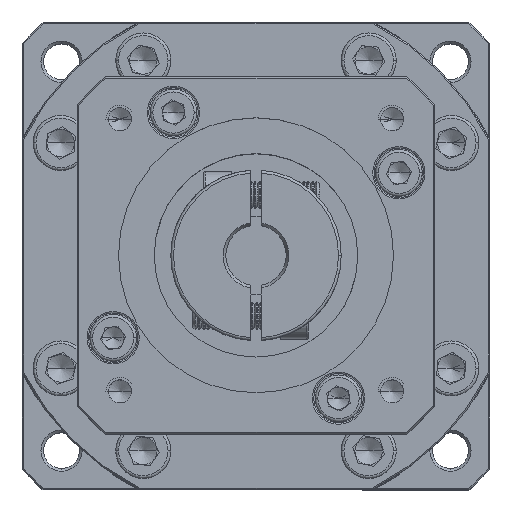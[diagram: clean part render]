
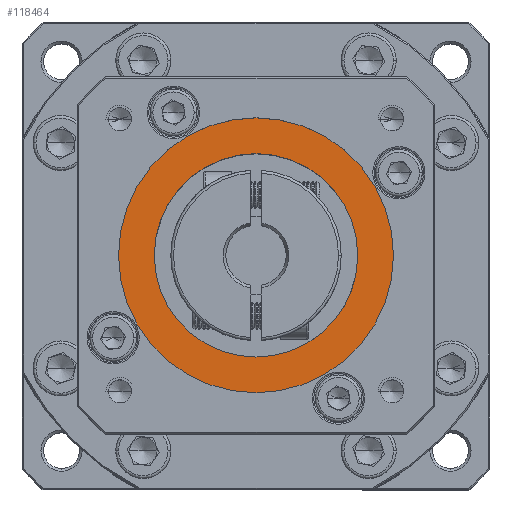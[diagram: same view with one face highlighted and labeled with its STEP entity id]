
A CAD part, top view. The second image highlights one B-rep face of the part: STEP entity #118464.
In plain terms, the highlighted planar face has unit normal (0, 0, 1).
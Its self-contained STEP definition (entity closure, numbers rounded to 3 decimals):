
#6265 = DIRECTION ( 'NONE',  ( 0., 0., -1. ) ) ;
#6620 = CARTESIAN_POINT ( 'NONE',  ( -48.917, 52.772, 13.599 ) ) ;
#7641 = CARTESIAN_POINT ( 'NONE',  ( -67.417, 52.772, 13.599 ) ) ;
#11105 = CARTESIAN_POINT ( 'NONE',  ( -92.417, 52.772, 13.599 ) ) ;
#12461 = CIRCLE ( 'NONE', #43131, 25. ) ;
#12570 = CARTESIAN_POINT ( 'NONE',  ( -67.417, 52.772, 13.599 ) ) ;
#16336 = DIRECTION ( 'NONE',  ( 1., 0., 0. ) ) ;
#19896 = DIRECTION ( 'NONE',  ( 1., 0., 0. ) ) ;
#22361 = CARTESIAN_POINT ( 'NONE',  ( -67.417, 52.772, 13.599 ) ) ;
#22629 = DIRECTION ( 'NONE',  ( 0., 0., 1. ) ) ;
#27552 = VERTEX_POINT ( 'NONE', #73310 ) ;
#31774 = CARTESIAN_POINT ( 'NONE',  ( -67.417, 52.772, 13.599 ) ) ;
#38205 = DIRECTION ( 'NONE',  ( 0., 0., -1. ) ) ;
#40495 = EDGE_CURVE ( 'NONE', #126836, #62275, #12461, .T. ) ;
#43131 = AXIS2_PLACEMENT_3D ( 'NONE', #12570, #22629, #106860 ) ;
#47424 = CARTESIAN_POINT ( 'NONE',  ( -42.417, 52.772, 13.599 ) ) ;
#48649 = AXIS2_PLACEMENT_3D ( 'NONE', #7641, #6265, #16336 ) ;
#50979 = CIRCLE ( 'NONE', #48649, 18.5 ) ;
#60777 = EDGE_CURVE ( 'NONE', #62275, #126836, #112728, .T. ) ;
#62275 = VERTEX_POINT ( 'NONE', #47424 ) ;
#72093 = EDGE_CURVE ( 'NONE', #119287, #27552, #50979, .T. ) ;
#73310 = CARTESIAN_POINT ( 'NONE',  ( -85.917, 52.772, 13.599 ) ) ;
#74552 = DIRECTION ( 'NONE',  ( 1., 0., 0. ) ) ;
#79406 = DIRECTION ( 'NONE',  ( 1., 0., 0. ) ) ;
#79593 = EDGE_CURVE ( 'NONE', #27552, #119287, #103653, .T. ) ;
#81871 = ORIENTED_EDGE ( 'NONE', *, *, #72093, .T. ) ;
#82575 = ORIENTED_EDGE ( 'NONE', *, *, #40495, .T. ) ;
#82659 = ORIENTED_EDGE ( 'NONE', *, *, #60777, .T. ) ;
#88421 = EDGE_LOOP ( 'NONE', ( #82659, #82575 ) ) ;
#92860 = PLANE ( 'NONE',  #115001 ) ;
#99978 = CARTESIAN_POINT ( 'NONE',  ( -67.417, 52.772, 13.599 ) ) ;
#103473 = FACE_BOUND ( 'NONE', #112199, .T. ) ;
#103653 = CIRCLE ( 'NONE', #113777, 18.5 ) ;
#106860 = DIRECTION ( 'NONE',  ( 1., 0., 0. ) ) ;
#112199 = EDGE_LOOP ( 'NONE', ( #81871, #134285 ) ) ;
#112728 = CIRCLE ( 'NONE', #130370, 25. ) ;
#113777 = AXIS2_PLACEMENT_3D ( 'NONE', #99978, #38205, #79406 ) ;
#115001 = AXIS2_PLACEMENT_3D ( 'NONE', #22361, #125744, #74552 ) ;
#115494 = DIRECTION ( 'NONE',  ( 0., 0., 1. ) ) ;
#118464 = ADVANCED_FACE ( 'NONE', ( #131128, #103473 ), #92860, .T. ) ;
#119287 = VERTEX_POINT ( 'NONE', #6620 ) ;
#125744 = DIRECTION ( 'NONE',  ( 0., 0., 1. ) ) ;
#126836 = VERTEX_POINT ( 'NONE', #11105 ) ;
#130370 = AXIS2_PLACEMENT_3D ( 'NONE', #31774, #115494, #19896 ) ;
#131128 = FACE_OUTER_BOUND ( 'NONE', #88421, .T. ) ;
#134285 = ORIENTED_EDGE ( 'NONE', *, *, #79593, .T. ) ;
